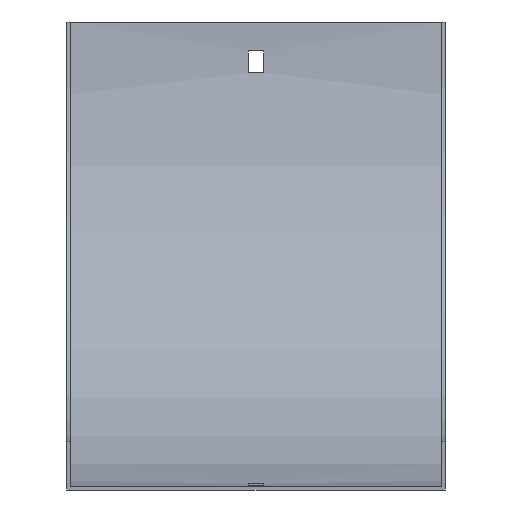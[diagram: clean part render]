
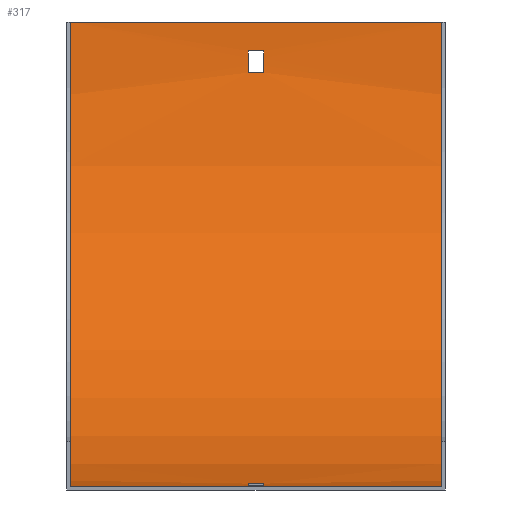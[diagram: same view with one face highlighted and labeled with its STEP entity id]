
A CAD part, front view. The second image highlights one B-rep face of the part: STEP entity #317.
In plain terms, the highlighted cylindrical face has radius 192.5 mm (diameter 385 mm), a partial arc.
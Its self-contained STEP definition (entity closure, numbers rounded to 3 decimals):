
#5 = EDGE_LOOP ( 'NONE', ( #208, #266, #222, #308 ) ) ;
#8 = AXIS2_PLACEMENT_3D ( 'NONE', #588, #451, #224 ) ;
#12 = VERTEX_POINT ( 'NONE', #544 ) ;
#23 = EDGE_CURVE ( 'NONE', #51, #226, #347, .T. ) ;
#25 = VERTEX_POINT ( 'NONE', #492 ) ;
#27 = AXIS2_PLACEMENT_3D ( 'NONE', #402, #223, #31 ) ;
#28 = EDGE_LOOP ( 'NONE', ( #340, #478, #593, #211 ) ) ;
#31 = DIRECTION ( 'NONE',  ( 0., 0., 1. ) ) ;
#34 = VECTOR ( 'NONE', #225, 1000. ) ;
#46 = EDGE_CURVE ( 'NONE', #334, #55, #291, .T. ) ;
#48 = CARTESIAN_POINT ( 'NONE',  ( 78.5, -173., -191.351 ) ) ;
#49 = EDGE_CURVE ( 'NONE', #25, #265, #114, .T. ) ;
#51 = VERTEX_POINT ( 'NONE', #342 ) ;
#55 = VERTEX_POINT ( 'NONE', #585 ) ;
#61 = DIRECTION ( 'NONE',  ( 1., 0., 0. ) ) ;
#65 = DIRECTION ( 'NONE',  ( -1., 0., 0. ) ) ;
#69 = AXIS2_PLACEMENT_3D ( 'NONE', #524, #606, #520 ) ;
#90 = FACE_BOUND ( 'NONE', #28, .T. ) ;
#93 = CARTESIAN_POINT ( 'NONE',  ( 77., -194., -192.5 ) ) ;
#94 = CARTESIAN_POINT ( 'NONE',  ( -3.25, -194., 0. ) ) ;
#96 = CIRCLE ( 'NONE', #382, 192.5 ) ;
#98 = DIRECTION ( 'NONE',  ( 1., 0., 0. ) ) ;
#110 = CARTESIAN_POINT ( 'NONE',  ( 78.5, -182., -192.126 ) ) ;
#114 = LINE ( 'NONE', #529, #429 ) ;
#129 = ORIENTED_EDGE ( 'NONE', *, *, #46, .T. ) ;
#138 = CARTESIAN_POINT ( 'NONE',  ( 3.25, -194., 0. ) ) ;
#142 = FACE_BOUND ( 'NONE', #423, .T. ) ;
#147 = CIRCLE ( 'NONE', #27, 192.5 ) ;
#154 = DIRECTION ( 'NONE',  ( -1., 0., 0. ) ) ;
#163 = ORIENTED_EDGE ( 'NONE', *, *, #193, .T. ) ;
#169 = CARTESIAN_POINT ( 'NONE',  ( -3.25, -173., -191.351 ) ) ;
#181 = LINE ( 'NONE', #408, #34 ) ;
#185 = EDGE_CURVE ( 'NONE', #265, #51, #147, .T. ) ;
#188 = DIRECTION ( 'NONE',  ( 0., 0., -1. ) ) ;
#193 = EDGE_CURVE ( 'NONE', #417, #334, #419, .T. ) ;
#203 = EDGE_CURVE ( 'NONE', #542, #329, #181, .T. ) ;
#208 = ORIENTED_EDGE ( 'NONE', *, *, #596, .F. ) ;
#211 = ORIENTED_EDGE ( 'NONE', *, *, #23, .F. ) ;
#222 = ORIENTED_EDGE ( 'NONE', *, *, #469, .T. ) ;
#223 = DIRECTION ( 'NONE',  ( -1., 0., 0. ) ) ;
#224 = DIRECTION ( 'NONE',  ( 0., 0., 1. ) ) ;
#225 = DIRECTION ( 'NONE',  ( -1., 0., 0. ) ) ;
#226 = VERTEX_POINT ( 'NONE', #271 ) ;
#230 = DIRECTION ( 'NONE',  ( -1., 0., 0. ) ) ;
#232 = DIRECTION ( 'NONE',  ( 1., 0., 0. ) ) ;
#234 = CYLINDRICAL_SURFACE ( 'NONE', #69, 192.5 ) ;
#238 = VERTEX_POINT ( 'NONE', #169 ) ;
#239 = CARTESIAN_POINT ( 'NONE',  ( 77., -194., 0. ) ) ;
#245 = CIRCLE ( 'NONE', #537, 192.5 ) ;
#248 = AXIS2_PLACEMENT_3D ( 'NONE', #239, #61, #531 ) ;
#255 = EDGE_CURVE ( 'NONE', #238, #417, #276, .T. ) ;
#256 = DIRECTION ( 'NONE',  ( 1., 0., 0. ) ) ;
#265 = VERTEX_POINT ( 'NONE', #416 ) ;
#266 = ORIENTED_EDGE ( 'NONE', *, *, #333, .F. ) ;
#271 = CARTESIAN_POINT ( 'NONE',  ( 3.25, -2.649, -21. ) ) ;
#276 = LINE ( 'NONE', #48, #365 ) ;
#278 = CARTESIAN_POINT ( 'NONE',  ( -77., -194., -192.5 ) ) ;
#280 = AXIS2_PLACEMENT_3D ( 'NONE', #454, #449, #405 ) ;
#291 = LINE ( 'NONE', #110, #343 ) ;
#296 = EDGE_CURVE ( 'NONE', #55, #238, #96, .T. ) ;
#308 = ORIENTED_EDGE ( 'NONE', *, *, #203, .T. ) ;
#317 = ADVANCED_FACE ( 'NONE', ( #90, #601, #142 ), #234, .F. ) ;
#321 = CARTESIAN_POINT ( 'NONE',  ( -77., -1.5, 0. ) ) ;
#329 = VERTEX_POINT ( 'NONE', #321 ) ;
#332 = CIRCLE ( 'NONE', #248, 192.5 ) ;
#333 = EDGE_CURVE ( 'NONE', #12, #356, #466, .T. ) ;
#334 = VERTEX_POINT ( 'NONE', #599 ) ;
#340 = ORIENTED_EDGE ( 'NONE', *, *, #185, .F. ) ;
#342 = CARTESIAN_POINT ( 'NONE',  ( -3.25, -2.649, -21. ) ) ;
#343 = VECTOR ( 'NONE', #154, 1000. ) ;
#347 = LINE ( 'NONE', #577, #363 ) ;
#352 = EDGE_CURVE ( 'NONE', #226, #25, #245, .T. ) ;
#356 = VERTEX_POINT ( 'NONE', #278 ) ;
#363 = VECTOR ( 'NONE', #256, 1000. ) ;
#365 = VECTOR ( 'NONE', #98, 1000. ) ;
#382 = AXIS2_PLACEMENT_3D ( 'NONE', #94, #516, #410 ) ;
#395 = CARTESIAN_POINT ( 'NONE',  ( 3.25, -173., -191.351 ) ) ;
#402 = CARTESIAN_POINT ( 'NONE',  ( -3.25, -194., 0. ) ) ;
#405 = DIRECTION ( 'NONE',  ( 0., 0., 1. ) ) ;
#408 = CARTESIAN_POINT ( 'NONE',  ( 77., -1.5, 0. ) ) ;
#410 = DIRECTION ( 'NONE',  ( 0., 0., -1. ) ) ;
#416 = CARTESIAN_POINT ( 'NONE',  ( -3.25, -1.874, -12. ) ) ;
#417 = VERTEX_POINT ( 'NONE', #395 ) ;
#419 = CIRCLE ( 'NONE', #280, 192.5 ) ;
#423 = EDGE_LOOP ( 'NONE', ( #129, #465, #515, #163 ) ) ;
#429 = VECTOR ( 'NONE', #65, 1000. ) ;
#449 = DIRECTION ( 'NONE',  ( -1., 0., 0. ) ) ;
#451 = DIRECTION ( 'NONE',  ( 1., 0., 0. ) ) ;
#454 = CARTESIAN_POINT ( 'NONE',  ( 3.25, -194., 0. ) ) ;
#465 = ORIENTED_EDGE ( 'NONE', *, *, #296, .T. ) ;
#466 = LINE ( 'NONE', #93, #525 ) ;
#469 = EDGE_CURVE ( 'NONE', #12, #542, #332, .T. ) ;
#478 = ORIENTED_EDGE ( 'NONE', *, *, #49, .F. ) ;
#492 = CARTESIAN_POINT ( 'NONE',  ( 3.25, -1.874, -12. ) ) ;
#515 = ORIENTED_EDGE ( 'NONE', *, *, #255, .T. ) ;
#516 = DIRECTION ( 'NONE',  ( 1., 0., 0. ) ) ;
#520 = DIRECTION ( 'NONE',  ( 0., 0., 1. ) ) ;
#524 = CARTESIAN_POINT ( 'NONE',  ( 78.5, -194., 0. ) ) ;
#525 = VECTOR ( 'NONE', #230, 1000. ) ;
#529 = CARTESIAN_POINT ( 'NONE',  ( 78.5, -1.874, -12. ) ) ;
#531 = DIRECTION ( 'NONE',  ( 0., 0., 1. ) ) ;
#537 = AXIS2_PLACEMENT_3D ( 'NONE', #138, #232, #188 ) ;
#542 = VERTEX_POINT ( 'NONE', #584 ) ;
#544 = CARTESIAN_POINT ( 'NONE',  ( 77., -194., -192.5 ) ) ;
#577 = CARTESIAN_POINT ( 'NONE',  ( 78.5, -2.649, -21. ) ) ;
#584 = CARTESIAN_POINT ( 'NONE',  ( 77., -1.5, 0. ) ) ;
#585 = CARTESIAN_POINT ( 'NONE',  ( -3.25, -182., -192.126 ) ) ;
#588 = CARTESIAN_POINT ( 'NONE',  ( -77., -194., 0. ) ) ;
#590 = CIRCLE ( 'NONE', #8, 192.5 ) ;
#593 = ORIENTED_EDGE ( 'NONE', *, *, #352, .F. ) ;
#596 = EDGE_CURVE ( 'NONE', #356, #329, #590, .T. ) ;
#599 = CARTESIAN_POINT ( 'NONE',  ( 3.25, -182., -192.126 ) ) ;
#601 = FACE_OUTER_BOUND ( 'NONE', #5, .T. ) ;
#606 = DIRECTION ( 'NONE',  ( -1., 0., 0. ) ) ;
